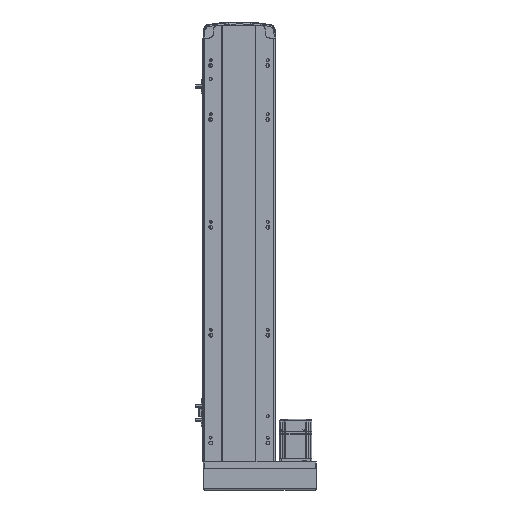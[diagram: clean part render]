
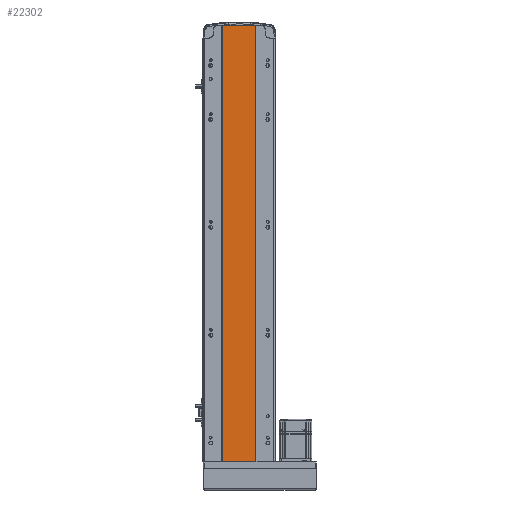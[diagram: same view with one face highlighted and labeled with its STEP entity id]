
A CAD part, front view. The second image highlights one B-rep face of the part: STEP entity #22302.
In plain terms, the highlighted planar face has unit normal (0, -1, 0).
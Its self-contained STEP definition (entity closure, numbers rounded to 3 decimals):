
#359 = LINE ( 'NONE', #9148, #21898 ) ;
#4322 = ORIENTED_EDGE ( 'NONE', *, *, #31248, .T. ) ;
#4652 = EDGE_CURVE ( 'NONE', #49774, #38543, #359, .T. ) ;
#5034 = DIRECTION ( 'NONE',  ( 1., 0., 0. ) ) ;
#7394 = VECTOR ( 'NONE', #32871, 1000. ) ;
#9058 = DIRECTION ( 'NONE',  ( -1., 0., 0. ) ) ;
#9148 = CARTESIAN_POINT ( 'NONE',  ( -32., 1., 809. ) ) ;
#15730 = DIRECTION ( 'NONE',  ( 1., 0., 0. ) ) ;
#16109 = CARTESIAN_POINT ( 'NONE',  ( -32., 1., 809. ) ) ;
#17499 = AXIS2_PLACEMENT_3D ( 'NONE', #44938, #40305, #9058 ) ;
#20757 = ORIENTED_EDGE ( 'NONE', *, *, #43387, .F. ) ;
#21898 = VECTOR ( 'NONE', #26792, 1000. ) ;
#22244 = PLANE ( 'NONE',  #17499 ) ;
#22302 = ADVANCED_FACE ( 'NONE', ( #35025 ), #22244, .F. ) ;
#23139 = VECTOR ( 'NONE', #5034, 1000. ) ;
#23626 = ORIENTED_EDGE ( 'NONE', *, *, #4652, .T. ) ;
#26792 = DIRECTION ( 'NONE',  ( 0., 0., -1. ) ) ;
#27225 = EDGE_CURVE ( 'NONE', #49774, #57212, #42192, .T. ) ;
#28575 = CARTESIAN_POINT ( 'NONE',  ( 30., 1., 809. ) ) ;
#29004 = VERTEX_POINT ( 'NONE', #54782 ) ;
#31248 = EDGE_CURVE ( 'NONE', #38543, #29004, #45352, .T. ) ;
#32871 = DIRECTION ( 'NONE',  ( 0., 0., -1. ) ) ;
#35025 = FACE_OUTER_BOUND ( 'NONE', #44701, .T. ) ;
#38543 = VERTEX_POINT ( 'NONE', #40897 ) ;
#40305 = DIRECTION ( 'NONE',  ( 0., 1., 0. ) ) ;
#40897 = CARTESIAN_POINT ( 'NONE',  ( -32., 1., 0. ) ) ;
#42192 = LINE ( 'NONE', #16109, #46344 ) ;
#43387 = EDGE_CURVE ( 'NONE', #57212, #29004, #47650, .T. ) ;
#44117 = CARTESIAN_POINT ( 'NONE',  ( -32., 1., 809. ) ) ;
#44701 = EDGE_LOOP ( 'NONE', ( #4322, #20757, #55442, #23626 ) ) ;
#44938 = CARTESIAN_POINT ( 'NONE',  ( -32., 1., 809. ) ) ;
#44956 = CARTESIAN_POINT ( 'NONE',  ( 30., 1., 809. ) ) ;
#45352 = LINE ( 'NONE', #47714, #23139 ) ;
#46344 = VECTOR ( 'NONE', #15730, 1000. ) ;
#47650 = LINE ( 'NONE', #28575, #7394 ) ;
#47714 = CARTESIAN_POINT ( 'NONE',  ( -32., 1., 0. ) ) ;
#49774 = VERTEX_POINT ( 'NONE', #44117 ) ;
#54782 = CARTESIAN_POINT ( 'NONE',  ( 30., 1., 0. ) ) ;
#55442 = ORIENTED_EDGE ( 'NONE', *, *, #27225, .F. ) ;
#57212 = VERTEX_POINT ( 'NONE', #44956 ) ;
